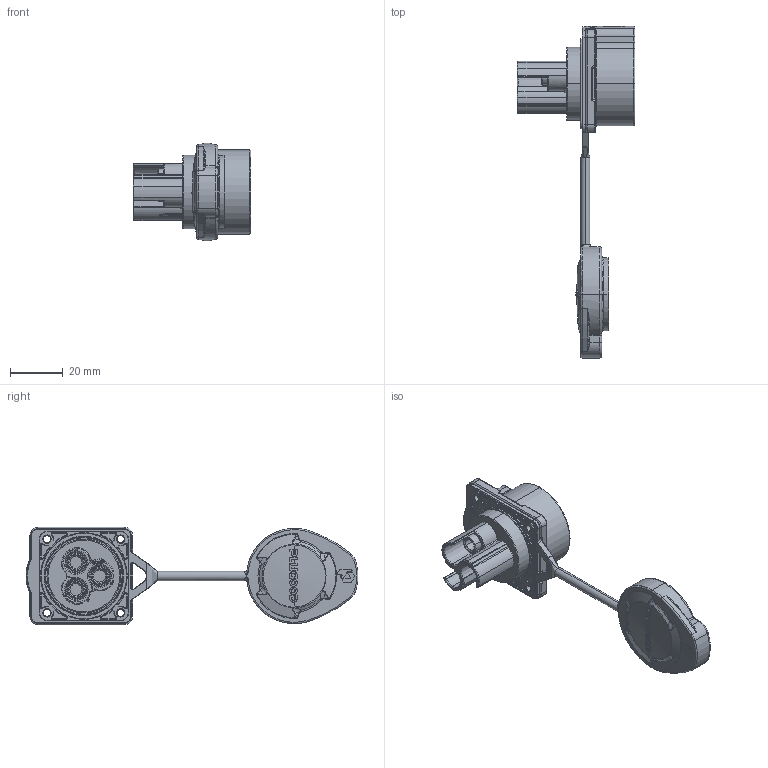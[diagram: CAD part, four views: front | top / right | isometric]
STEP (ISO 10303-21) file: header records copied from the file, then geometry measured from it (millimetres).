
FILE_DESCRIPTION (( 'STEP AP203' ), '1' );
FILE_NAME ('PLG28 3郋侐謂假蚾脣釱.STEP', '2025-08-08T09:22:52', ( '' ), ( '' ), 'SwSTEP 2.0', 'SolidWorks 2015', '' );
FILE_SCHEMA (( 'CONFIG_CONTROL_DESIGN' ));
Length unit declared in the file: millimetre
Products named in the file (1): PLG28 3郋侐謂假蚾脣釱
Bounding box: 44.8 x 126.25 x 37 mm (x, y, z)
Volume: 26106.6 mm3; surface area: 20406.4 mm2
Topology: 14 solids, 18 shells, 1990 faces, 5167 edges, 3117 vertices
Faces by surface type: plane 609, cylinder 515, torus 511, bspline 256, cone 86, sphere 13
Entity records: 68457 total; most frequent: CARTESIAN_POINT 21694, ORIENTED_EDGE 10278, DIRECTION 9511, EDGE_CURVE 5139, AXIS2_PLACEMENT_3D 3974, VERTEX_POINT 3117, CIRCLE 2239, EDGE_LOOP 2078
